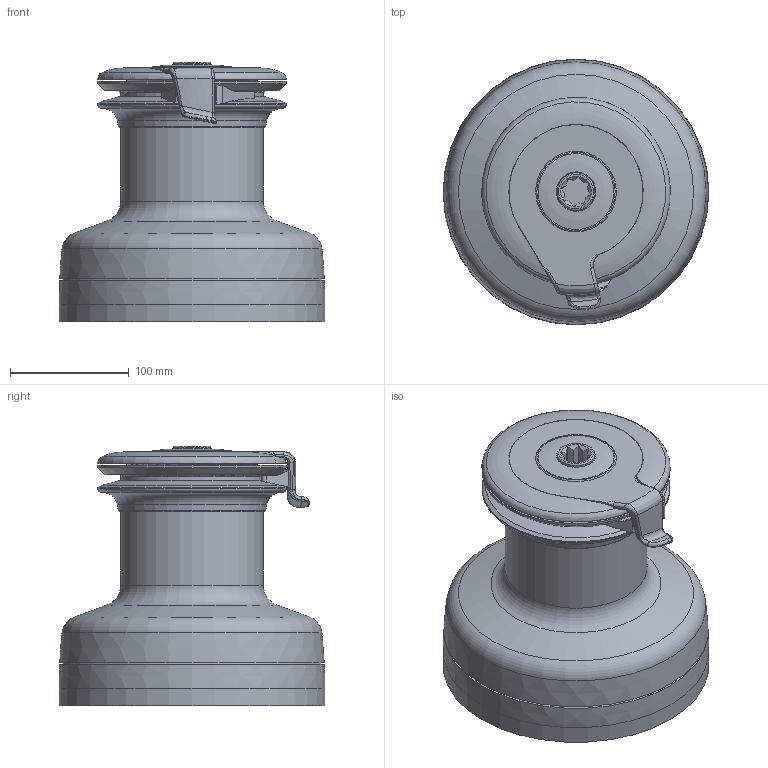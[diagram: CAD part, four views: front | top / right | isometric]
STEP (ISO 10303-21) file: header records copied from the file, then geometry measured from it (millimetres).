
FILE_DESCRIPTION(/* description */ (''),/* implementation_level */ '2;1');
FILE_NAME(/* name */ '\\ANTALSBS2K8\Catalogo Antal\CD\Contenuto\Antal - CAD library\cad_library\3d_stp\Winches\XT62.stp',/* time_stamp */ '2016-03-24T17:20:21+01:00',/* author */ ('gianni'),/* organization */ (''),/* preprocessor_version */ 'ST-DEVELOPER v16.1',/* originating_system */ 'Autodesk Inventor 2016',/* authorisation */ '');
FILE_SCHEMA (('AUTOMOTIVE_DESIGN { 1 0 10303 214 3 1 1 }'));
Length unit declared in the file: millimetre
Products named in the file (1): XT62
Bounding box: 224 x 224 x 219 mm (x, y, z)
Volume: 4807198 mm3; surface area: 242358.6 mm2
Topology: 1 solids, 1 shells, 178 faces, 438 edges, 279 vertices
Faces by surface type: plane 61, cylinder 53, bspline 33, torus 20, cone 11
Full cylindrical faces by diameter (mm): 8.25 x6, 13.5 x1, 31.72 x1, 32.2 x1, 120 x2, 159 x2, 224 x1
Entity records: 7264 total; most frequent: CARTESIAN_POINT 3464, ORIENTED_EDGE 786, DIRECTION 726, EDGE_CURVE 393, AXIS2_PLACEMENT_3D 304, VERTEX_POINT 270, EDGE_LOOP 231, FACE_OUTER_BOUND 178
